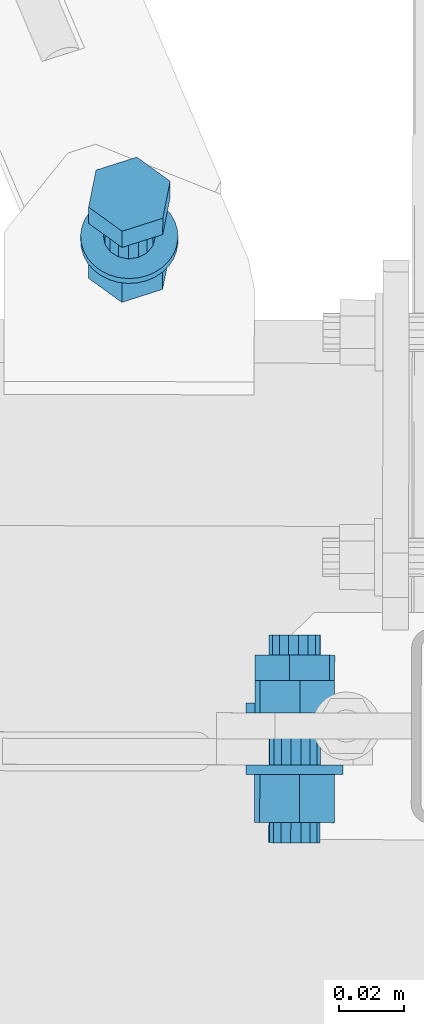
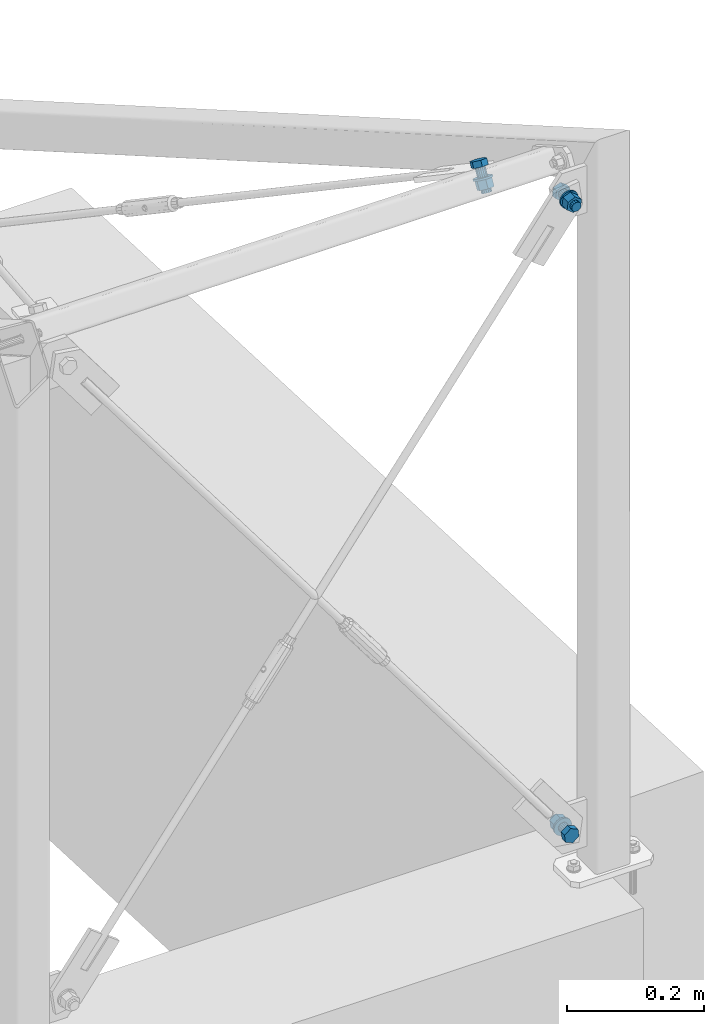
# One storey, part 228 of 288: 3 mechanical fasteners.
"""IFC2X3 building model written with IfcOpenShell, lengths in millimetres."""

from ifc_helpers import new_model, entity, si_unit, converted_unit, origin_with_axes, place, context, project, spatial, faceted_brep, element, save


model = new_model("IFC2X3")

# Units and contexts
model_context = context("Model", 3, precision=1e-09, world=origin_with_axes())
ifc_project = project(units=[si_unit("LENGTHUNIT", "METRE", prefix="MILLI"), si_unit("AREAUNIT", "SQUARE_METRE"), si_unit("VOLUMEUNIT", "CUBIC_METRE"), converted_unit("PLANEANGLEUNIT", "DEGREE", entity("IfcPlaneAngleMeasure", 0.01745329), si_unit("PLANEANGLEUNIT", "RADIAN"), dimensions=[0, 0, 0, 0, 0, 0, 0])], contexts=[model_context])

# Site, building, storey
site_placement = place(None, origin_with_axes())
site = spatial("IfcSite", under=ifc_project, at=site_placement, Name="Remont ?wietlik?w nad MC w NCPP w Opolu", CompositionType="ELEMENT")
building_placement = place(site_placement, origin_with_axes())
building = spatial("IfcBuilding", under=site, at=building_placement, Name="Konstrukcja 1", CompositionType="ELEMENT")
storey_placement = place(building_placement, origin_with_axes())
storey = spatial("IfcBuildingStorey", under=building, at=storey_placement, Name="Default Storey", CompositionType="ELEMENT", Elevation=0.0)

# Mechanical fasteners
mechanical_fastener_1_placement = place(None, origin_with_axes())
element("IfcMechanicalFastener", 1, at=mechanical_fastener_1_placement, inside=storey, ObjectType="Bolt#1", NominalDiameter=16.0, NominalLength=40.0, context=model_context, shape_type="Brep", body=[
    faceted_brep([(11026.565396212, -145.859291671, 1206.597433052), (11026.587859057, -135.8593169, 1206.597433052), (11038.882309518, -135.886933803, 1211.863964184), (11038.859846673, -145.886908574, 1211.863964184), (11040.468596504, -135.890497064, 1225.144563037), (11040.446133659, -145.890471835, 1225.144563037), (11029.76043303, -135.866443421, 1233.158630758), (11029.737970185, -145.866418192, 1233.158630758), (11017.465982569, -135.838826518, 1227.892099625), (11017.443519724, -145.838801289, 1227.892099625), (11015.879695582, -135.835263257, 1214.611500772), (11015.857232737, -145.835238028, 1214.611500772)], [[[0, 1, 2, 3]], [[3, 2, 4, 5]], [[5, 4, 6, 7]], [[7, 6, 8, 9]], [[9, 8, 10, 11]], [[11, 10, 1, 0]], [[4, 2, 1, 10, 8, 6]], [[0, 3, 5, 7, 9, 11]]]),
    faceted_brep([(11032.945132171, -145.873622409, 1226.282930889), (11032.909191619, -161.873582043, 1226.282930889), (11034.995354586, -161.87826817, 1223.961008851), (11035.031295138, -145.878308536, 1223.961008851), (11036.034158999, -161.880601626, 1221.017490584), (11036.070099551, -145.880641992, 1221.017490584), (11035.867456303, -161.880227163, 1217.900500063), (11035.903396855, -145.88026753, 1217.900500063), (11034.520625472, -161.877201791, 1215.084570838), (11034.556566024, -145.877242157, 1215.084570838), (11032.198709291, -161.871986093, 1212.998402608), (11032.234649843, -145.872026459, 1212.998402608), (11029.255198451, -161.865374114, 1211.959595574), (11029.291139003, -145.86541448, 1211.959595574), (11026.138215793, -161.858372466, 1212.126298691), (11026.174156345, -145.858412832, 1212.126298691), (11023.322293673, -161.852047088, 1213.47313292), (11023.358234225, -145.852087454, 1213.47313292), (11021.236130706, -161.84736096, 1215.795054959), (11021.272071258, -145.847401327, 1215.795054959), (11020.197326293, -161.845027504, 1218.738573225), (11020.233266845, -145.845067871, 1218.738573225), (11020.364028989, -161.845401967, 1221.855563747), (11020.399969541, -145.845442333, 1221.855563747), (11021.71085982, -161.84842734, 1224.671492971), (11021.746800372, -145.848467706, 1224.671492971), (11024.032776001, -161.853643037, 1226.757661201), (11024.068716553, -145.853683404, 1226.757661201), (11026.976286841, -161.860255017, 1227.796468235), (11027.012227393, -145.860295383, 1227.796468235), (11030.093269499, -161.867256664, 1227.629765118), (11030.129210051, -145.867297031, 1227.629765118)], [[[0, 1, 2, 3]], [[3, 2, 4, 5]], [[5, 4, 6, 7]], [[7, 6, 8, 9]], [[9, 8, 10, 11]], [[11, 10, 12, 13]], [[13, 12, 14, 15]], [[15, 14, 16, 17]], [[17, 16, 18, 19]], [[19, 18, 20, 21]], [[21, 20, 22, 23]], [[23, 22, 24, 25]], [[25, 24, 26, 27]], [[27, 26, 28, 29]], [[29, 28, 30, 31]], [[31, 30, 1, 0]], [[0, 3, 5, 7, 9, 11, 13, 15, 17, 19, 21, 23, 25, 27, 29, 31]], [[1, 30, 28, 26, 24, 22, 20, 18, 16, 14, 12, 10, 8, 6, 4, 2]]]),
    faceted_brep([(11037.10345947, -161.883003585, 1231.887217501), (11037.096720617, -164.882996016, 1231.887217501), (11039.266894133, -164.887870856, 1229.903043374), (11039.273632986, -161.887878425, 1229.903043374), (11041.00827618, -164.891782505, 1227.533613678), (11041.015015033, -161.891790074, 1227.533613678), (11042.253946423, -164.894580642, 1224.869984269), (11042.260685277, -161.894588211, 1224.869984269), (11042.956034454, -164.896157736, 1222.014516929), (11042.962773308, -161.896165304, 1222.014516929), (11043.087559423, -164.896453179, 1219.076945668), (11043.094298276, -161.896460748, 1219.076945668), (11042.643466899, -164.895455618, 1216.170159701), (11042.650205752, -161.895463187, 1216.170159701), (11041.640823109, -164.893203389, 1213.405865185), (11041.647561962, -161.893210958, 1213.405865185), (11040.118159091, -164.889783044, 1210.890292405), (11040.124897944, -161.889790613, 1210.890292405), (11038.13398997, -164.885326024, 1208.720113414), (11038.140728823, -161.885333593, 1208.720113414), (11035.764566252, -164.880003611, 1206.978726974), (11035.771305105, -161.88001118, 1206.978726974), (11033.100943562, -164.874020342, 1205.733053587), (11033.107682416, -161.87402791, 1205.733053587), (11030.245483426, -164.86760615, 1205.030963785), (11030.25222228, -161.867613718, 1205.030963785), (11027.307919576, -164.861007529, 1204.899438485), (11027.31465843, -161.861015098, 1204.899438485), (11024.401140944, -164.854478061, 1205.343532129), (11024.407879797, -161.854485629, 1205.343532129), (11021.636853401, -164.848268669, 1206.346178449), (11021.643592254, -161.848276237, 1206.346178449), (11019.121286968, -164.842617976, 1207.868846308), (11019.128025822, -161.842625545, 1207.868846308), (11016.951113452, -164.837743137, 1209.853020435), (11016.957852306, -161.837750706, 1209.853020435), (11015.209731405, -164.833831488, 1212.222450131), (11015.216470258, -161.833839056, 1212.222450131), (11013.964061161, -164.831033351, 1214.886079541), (11013.970800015, -161.831040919, 1214.886079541), (11013.261973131, -164.829456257, 1217.741546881), (11013.268711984, -161.829463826, 1217.741546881), (11013.130448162, -164.829160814, 1220.679118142), (11013.137187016, -161.829168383, 1220.679118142), (11013.574540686, -164.830158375, 1223.585904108), (11013.58127954, -161.830165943, 1223.585904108), (11014.577184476, -164.832410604, 1226.350198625), (11014.58392333, -161.832418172, 1226.350198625), (11016.099848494, -164.835830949, 1228.865771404), (11016.106587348, -161.835838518, 1228.865771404), (11018.084017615, -164.840287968, 1231.035950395), (11018.090756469, -161.840295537, 1231.035950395), (11020.453441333, -164.845610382, 1232.777336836), (11020.460180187, -161.84561795, 1232.777336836), (11023.117064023, -164.851593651, 1234.023010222), (11023.123802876, -161.85160122, 1234.023010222), (11025.972524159, -164.858007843, 1234.725100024), (11025.979263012, -161.858015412, 1234.725100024), (11028.910088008, -164.864606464, 1234.856625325), (11028.916826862, -161.864614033, 1234.856625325), (11031.816866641, -164.871135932, 1234.41253168), (11031.823605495, -161.871143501, 1234.41253168), (11034.581154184, -164.877345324, 1233.40988536), (11034.587893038, -161.877352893, 1233.40988536)], [[[0, 1, 2, 3]], [[3, 2, 4, 5]], [[5, 4, 6, 7]], [[7, 6, 8, 9]], [[9, 8, 10, 11]], [[11, 10, 12, 13]], [[13, 12, 14, 15]], [[15, 14, 16, 17]], [[17, 16, 18, 19]], [[19, 18, 20, 21]], [[21, 20, 22, 23]], [[23, 22, 24, 25]], [[25, 24, 26, 27]], [[27, 26, 28, 29]], [[29, 28, 30, 31]], [[31, 30, 32, 33]], [[33, 32, 34, 35]], [[35, 34, 36, 37]], [[37, 36, 38, 39]], [[39, 38, 40, 41]], [[41, 40, 42, 43]], [[43, 42, 44, 45]], [[45, 44, 46, 47]], [[47, 46, 48, 49]], [[49, 48, 50, 51]], [[51, 50, 52, 53]], [[53, 52, 54, 55]], [[55, 54, 56, 57]], [[57, 56, 58, 59]], [[59, 58, 60, 61]], [[61, 60, 62, 63]], [[63, 62, 1, 0]], [[0, 3, 5, 7, 9, 11, 13, 15, 17, 19, 21, 23, 25, 27, 29, 31, 33, 35, 37, 39, 41, 43, 45, 47, 49, 51, 53, 55, 57, 59, 61, 63]], [[1, 62, 60, 58, 56, 54, 52, 50, 48, 46, 44, 42, 40, 38, 36, 34, 32, 30, 28, 26, 24, 22, 20, 18, 16, 14, 12, 10, 8, 6, 4, 2]]]),
    faceted_brep([(11026.489471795, -179.659206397, 1206.597433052), (11026.522716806, -164.859243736, 1206.597433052), (11038.817167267, -164.886860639, 1211.863964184), (11038.783922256, -179.6868233, 1211.863964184), (11040.403454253, -164.8904239, 1225.144563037), (11040.370209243, -179.690386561, 1225.144563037), (11029.695290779, -164.866370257, 1233.158630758), (11029.662045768, -179.666332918, 1233.158630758), (11017.400840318, -164.838753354, 1227.892099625), (11017.367595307, -179.638716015, 1227.892099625), (11015.814553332, -164.835190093, 1214.611500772), (11015.781308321, -179.635152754, 1214.611500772)], [[[0, 1, 2, 3]], [[3, 2, 4, 5]], [[5, 4, 6, 7]], [[7, 6, 8, 9]], [[9, 8, 10, 11]], [[11, 10, 1, 0]], [[4, 2, 1, 10, 8, 6]], [[0, 3, 5, 7, 9, 11]]]),
    faceted_brep([(11032.869207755, -179.673537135, 1226.282930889), (11032.855280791, -185.873521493, 1226.282930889), (11034.941443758, -185.87820762, 1223.961008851), (11034.955370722, -179.678223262, 1223.961008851), (11035.980248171, -185.880541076, 1221.017490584), (11035.994175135, -179.680556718, 1221.017490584), (11035.813545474, -185.880166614, 1217.900500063), (11035.827472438, -179.680182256, 1217.900500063), (11034.466714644, -185.877141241, 1215.084570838), (11034.480641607, -179.677156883, 1215.084570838), (11032.144798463, -185.871925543, 1212.998402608), (11032.158725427, -179.671941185, 1212.998402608), (11029.201287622, -185.865313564, 1211.959595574), (11029.215214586, -179.665329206, 1211.959595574), (11026.084304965, -185.858311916, 1212.126298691), (11026.098231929, -179.658327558, 1212.126298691), (11023.268382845, -185.851986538, 1213.47313292), (11023.282309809, -179.65200218, 1213.47313292), (11021.182219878, -185.847300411, 1215.795054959), (11021.196146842, -179.647316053, 1215.795054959), (11020.143415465, -185.844966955, 1218.738573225), (11020.157342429, -179.644982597, 1218.738573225), (11020.310118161, -185.845341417, 1221.855563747), (11020.324045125, -179.645357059, 1221.855563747), (11021.656948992, -185.84836679, 1224.671492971), (11021.670875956, -179.648382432, 1224.671492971), (11023.978865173, -185.853582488, 1226.757661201), (11023.992792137, -179.65359813, 1226.757661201), (11026.922376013, -185.860194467, 1227.796468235), (11026.936302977, -179.660210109, 1227.796468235), (11030.03935867, -185.867196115, 1227.629765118), (11030.053285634, -179.667211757, 1227.629765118)], [[[0, 1, 2, 3]], [[3, 2, 4, 5]], [[5, 4, 6, 7]], [[7, 6, 8, 9]], [[9, 8, 10, 11]], [[11, 10, 12, 13]], [[13, 12, 14, 15]], [[15, 14, 16, 17]], [[17, 16, 18, 19]], [[19, 18, 20, 21]], [[21, 20, 22, 23]], [[23, 22, 24, 25]], [[25, 24, 26, 27]], [[27, 26, 28, 29]], [[29, 28, 30, 31]], [[31, 30, 1, 0]], [[0, 3, 5, 7, 9, 11, 13, 15, 17, 19, 21, 23, 25, 27, 29, 31]], [[1, 30, 28, 26, 24, 22, 20, 18, 16, 14, 12, 10, 8, 6, 4, 2]]]),
])
mechanical_fastener_2_placement = place(None, origin_with_axes())
element("IfcMechanicalFastener", 2, at=mechanical_fastener_2_placement, inside=storey, ObjectType="Bolt#1", NominalDiameter=16.0, NominalLength=40.0, context=model_context, shape_type="Brep", body=[
    faceted_brep([(11026.529300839, -161.872435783, 101.402567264), (11026.506525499, -171.872409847, 101.402567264), (11038.800975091, -171.900410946, 96.136036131), (11038.823750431, -161.900436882, 96.136036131), (11040.387261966, -171.904023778, 82.855437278), (11040.410037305, -161.904049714, 82.855437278), (11029.679099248, -171.87963551, 74.841369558), (11029.701874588, -161.879661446, 74.841369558), (11017.384649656, -171.851634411, 80.10790069), (11017.407424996, -161.851660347, 80.10790069), (11015.798362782, -171.84802158, 93.388499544), (11015.821138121, -161.848047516, 93.388499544)], [[[0, 1, 2, 3]], [[3, 2, 4, 5]], [[5, 4, 6, 7]], [[7, 6, 8, 9]], [[9, 8, 10, 11]], [[11, 10, 1, 0]], [[4, 2, 1, 10, 8, 6]], [[0, 3, 5, 7, 9, 11]]]),
    faceted_brep([(11032.909036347, -161.886965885, 81.717069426), (11032.945476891, -145.887007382, 81.717069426), (11035.03163971, -145.891758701, 84.038991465), (11034.995199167, -161.891717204, 84.038991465), (11036.07044405, -145.894124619, 86.982509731), (11036.034003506, -161.894083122, 86.982509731), (11035.903741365, -145.893744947, 90.099500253), (11035.867300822, -161.89370345, 90.099500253), (11034.55691063, -145.890677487, 92.915429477), (11034.520470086, -161.890635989, 92.915429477), (11032.234994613, -145.88538923, 95.001597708), (11032.19855407, -161.885347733, 95.001597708), (11029.291483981, -145.878685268, 96.040404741), (11029.255043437, -161.87864377, 96.040404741), (11026.174501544, -145.871586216, 95.873701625), (11026.138061, -161.871544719, 95.873701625), (11023.358579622, -145.865172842, 94.526867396), (11023.322139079, -161.865131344, 94.526867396), (11021.272416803, -145.860421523, 92.204945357), (11021.23597626, -161.860380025, 92.204945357), (11020.233612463, -145.858055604, 89.26142709), (11020.19717192, -161.858014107, 89.26142709), (11020.400315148, -145.858435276, 86.144436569), (11020.363874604, -161.858393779, 86.144436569), (11021.747145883, -145.861502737, 83.328507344), (11021.71070534, -161.86146124, 83.328507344), (11024.0690619, -145.866790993, 81.242339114), (11024.032621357, -161.866749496, 81.242339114), (11027.012572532, -145.873494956, 80.203532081), (11026.976131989, -161.873453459, 80.203532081), (11030.129554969, -145.880594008, 80.370235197), (11030.093114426, -161.88055251, 80.370235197)], [[[0, 1, 2, 3]], [[3, 2, 4, 5]], [[5, 4, 6, 7]], [[7, 6, 8, 9]], [[9, 8, 10, 11]], [[11, 10, 12, 13]], [[13, 12, 14, 15]], [[15, 14, 16, 17]], [[17, 16, 18, 19]], [[19, 18, 20, 21]], [[21, 20, 22, 23]], [[23, 22, 24, 25]], [[25, 24, 26, 27]], [[27, 26, 28, 29]], [[29, 28, 30, 31]], [[31, 30, 1, 0]], [[0, 3, 5, 7, 9, 11, 13, 15, 17, 19, 21, 23, 25, 27, 29, 31]], [[1, 30, 28, 26, 24, 22, 20, 18, 16, 14, 12, 10, 8, 6, 4, 2]]]),
    faceted_brep([(11037.139744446, -145.896559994, 76.112782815), (11037.146577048, -142.896567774, 76.112782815), (11039.31675041, -142.901510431, 78.096956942), (11039.309917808, -145.90150265, 78.096956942), (11041.058132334, -142.905476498, 80.466386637), (11041.051299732, -145.905468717, 80.466386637), (11042.30380249, -142.908313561, 83.130016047), (11042.296969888, -145.90830578, 83.130016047), (11043.005890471, -142.909912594, 85.985483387), (11042.999057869, -145.909904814, 85.985483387), (11043.13741543, -142.910212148, 88.923054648), (11043.130582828, -145.910204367, 88.923054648), (11042.693322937, -142.909200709, 91.829840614), (11042.686490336, -145.909192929, 91.829840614), (11041.690679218, -142.906917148, 94.594135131), (11041.683846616, -145.906909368, 94.594135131), (11040.168015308, -142.903449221, 97.109707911), (11040.161182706, -145.90344144, 97.109707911), (11038.183846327, -142.898930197, 99.279886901), (11038.177013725, -145.898922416, 99.279886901), (11035.814422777, -142.89353374, 101.021273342), (11035.807590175, -145.893525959, 101.021273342), (11033.150800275, -142.887467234, 102.266946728), (11033.143967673, -145.887459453, 102.266946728), (11030.295340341, -142.88096381, 102.96903653), (11030.288507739, -145.880956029, 102.96903653), (11027.357776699, -142.874273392, 103.100561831), (11027.350944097, -145.874265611, 103.100561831), (11024.450998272, -142.867653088, 102.656468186), (11024.44416567, -145.867645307, 102.656468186), (11021.686710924, -142.861357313, 101.653821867), (11021.679878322, -145.861349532, 101.653821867), (11019.171144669, -142.855628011, 100.131154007), (11019.164312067, -145.85562023, 100.131154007), (11017.000971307, -142.850685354, 98.14697988), (11016.994138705, -145.850677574, 98.14697988), (11015.259589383, -142.846719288, 95.777550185), (11015.252756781, -145.846711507, 95.777550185), (11014.013919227, -142.843882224, 93.113920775), (11014.007086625, -145.843874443, 93.113920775), (11013.311831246, -142.842283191, 90.258453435), (11013.304998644, -145.84227541, 90.258453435), (11013.180306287, -142.841983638, 87.320882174), (11013.173473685, -145.841975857, 87.320882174), (11013.624398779, -142.842995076, 84.414096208), (11013.617566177, -145.842987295, 84.414096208), (11014.627042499, -142.845278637, 81.649801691), (11014.620209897, -145.845270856, 81.649801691), (11016.149706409, -142.848746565, 79.134228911), (11016.142873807, -145.848738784, 79.134228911), (11018.13387539, -142.853265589, 76.96404992), (11018.127042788, -145.853257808, 76.96404992), (11020.50329894, -142.858662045, 75.22266348), (11020.496466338, -145.858654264, 75.22266348), (11023.166921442, -142.864728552, 73.976990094), (11023.16008884, -145.864720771, 73.976990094), (11026.022381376, -142.871231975, 73.274900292), (11026.015548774, -145.871224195, 73.274900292), (11028.959945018, -142.877922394, 73.143374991), (11028.953112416, -145.877914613, 73.143374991), (11031.866723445, -142.884542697, 73.587468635), (11031.859890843, -145.884534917, 73.587468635), (11034.631010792, -142.890838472, 74.590114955), (11034.624178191, -145.890830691, 74.590114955)], [[[0, 1, 2, 3]], [[3, 2, 4, 5]], [[5, 4, 6, 7]], [[7, 6, 8, 9]], [[9, 8, 10, 11]], [[11, 10, 12, 13]], [[13, 12, 14, 15]], [[15, 14, 16, 17]], [[17, 16, 18, 19]], [[19, 18, 20, 21]], [[21, 20, 22, 23]], [[23, 22, 24, 25]], [[25, 24, 26, 27]], [[27, 26, 28, 29]], [[29, 28, 30, 31]], [[31, 30, 32, 33]], [[33, 32, 34, 35]], [[35, 34, 36, 37]], [[37, 36, 38, 39]], [[39, 38, 40, 41]], [[41, 40, 42, 43]], [[43, 42, 44, 45]], [[45, 44, 46, 47]], [[47, 46, 48, 49]], [[49, 48, 50, 51]], [[51, 50, 52, 53]], [[53, 52, 54, 55]], [[55, 54, 56, 57]], [[57, 56, 58, 59]], [[59, 58, 60, 61]], [[61, 60, 62, 63]], [[63, 62, 1, 0]], [[0, 3, 5, 7, 9, 11, 13, 15, 17, 19, 21, 23, 25, 27, 29, 31, 33, 35, 37, 39, 41, 43, 45, 47, 49, 51, 53, 55, 57, 59, 61, 63]], [[1, 62, 60, 58, 56, 54, 52, 50, 48, 46, 44, 42, 40, 38, 36, 34, 32, 30, 28, 26, 24, 22, 20, 18, 16, 14, 12, 10, 8, 6, 4, 2]]]),
    faceted_brep([(11026.606281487, -128.072523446, 101.402567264), (11026.572573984, -142.872485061, 101.402567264), (11038.867023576, -142.90048616, 96.136036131), (11038.900731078, -128.100524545, 96.136036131), (11040.45331045, -142.904098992, 82.855437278), (11040.487017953, -128.104137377, 82.855437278), (11029.745147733, -142.879710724, 74.841369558), (11029.778855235, -128.079749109, 74.841369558), (11017.450698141, -142.851709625, 80.10790069), (11017.484405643, -128.05174801, 80.10790069), (11015.864411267, -142.848096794, 93.388499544), (11015.898118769, -128.048135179, 93.388499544)], [[[0, 1, 2, 3]], [[3, 2, 4, 5]], [[5, 4, 6, 7]], [[7, 6, 8, 9]], [[9, 8, 10, 11]], [[11, 10, 1, 0]], [[4, 2, 1, 10, 8, 6]], [[0, 3, 5, 7, 9, 11]]]),
    faceted_brep([(11032.986016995, -128.087053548, 81.717069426), (11033.000137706, -121.887069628, 81.717069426), (11035.086300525, -121.891820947, 84.038991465), (11035.072179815, -128.091804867, 84.038991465), (11036.125104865, -121.894186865, 86.982509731), (11036.110984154, -128.094170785, 86.982509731), (11035.95840218, -121.893807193, 90.099500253), (11035.94428147, -128.093791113, 90.099500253), (11034.611571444, -121.890739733, 92.915429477), (11034.597450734, -128.090723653, 92.915429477), (11032.289655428, -121.885451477, 95.001597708), (11032.275534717, -128.085435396, 95.001597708), (11029.346144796, -121.878747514, 96.040404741), (11029.332024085, -128.078731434, 96.040404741), (11026.229162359, -121.871648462, 95.873701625), (11026.215041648, -128.071632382, 95.873701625), (11023.413240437, -121.865235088, 94.526867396), (11023.399119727, -128.065219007, 94.526867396), (11021.327077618, -121.860483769, 92.204945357), (11021.312956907, -128.060467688, 92.204945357), (11020.288273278, -121.85811785, 89.26142709), (11020.274152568, -128.05810177, 89.26142709), (11020.454975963, -121.858497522, 86.144436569), (11020.440855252, -128.058481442, 86.144436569), (11021.801806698, -121.861564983, 83.328507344), (11021.787685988, -128.061548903, 83.328507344), (11024.123722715, -121.866853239, 81.242339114), (11024.109602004, -128.066837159, 81.242339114), (11027.067233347, -121.873557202, 80.203532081), (11027.053112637, -128.073541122, 80.203532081), (11030.184215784, -121.880656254, 80.370235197), (11030.170095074, -128.080640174, 80.370235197)], [[[0, 1, 2, 3]], [[3, 2, 4, 5]], [[5, 4, 6, 7]], [[7, 6, 8, 9]], [[9, 8, 10, 11]], [[11, 10, 12, 13]], [[13, 12, 14, 15]], [[15, 14, 16, 17]], [[17, 16, 18, 19]], [[19, 18, 20, 21]], [[21, 20, 22, 23]], [[23, 22, 24, 25]], [[25, 24, 26, 27]], [[27, 26, 28, 29]], [[29, 28, 30, 31]], [[31, 30, 1, 0]], [[0, 3, 5, 7, 9, 11, 13, 15, 17, 19, 21, 23, 25, 27, 29, 31]], [[1, 30, 28, 26, 24, 22, 20, 18, 16, 14, 12, 10, 8, 6, 4, 2]]]),
])
mechanical_fastener_3_placement = place(None, origin_with_axes())
element("IfcMechanicalFastener", 3, at=mechanical_fastener_3_placement, inside=storey, ObjectType="Bolt#1", NominalDiameter=16.0, NominalLength=40.0, context=model_context, shape_type="Brep", body=[
    faceted_brep([(10966.962558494, 21.311471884, 1196.65155059), (10966.951286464, 16.311487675, 1187.991294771), (10964.675638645, 4.898557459, 1194.583492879), (10964.686910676, 9.898541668, 1203.243748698), (10974.952010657, -2.521079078, 1198.853832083), (10974.963282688, 2.47890513, 1207.514087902), (10987.504030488, 1.4722146, 1196.531973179), (10987.515302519, 6.472198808, 1205.192228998), (10989.779678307, 12.885144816, 1189.939775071), (10989.790950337, 17.885129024, 1198.60003089), (10979.503306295, 20.304781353, 1185.669435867), (10979.514578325, 25.304765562, 1194.329691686)], [[[0, 1, 2, 3]], [[3, 2, 4, 5]], [[5, 4, 6, 7]], [[7, 6, 8, 9]], [[9, 8, 10, 11]], [[11, 10, 1, 0]], [[3, 5, 7, 9, 11, 0]], [[2, 1, 10, 8, 6, 4]]]),
    faceted_brep([(10979.97252133, -5.611592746, 1182.15639556), (10979.990556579, 2.388381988, 1196.01280487), (10976.907151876, 1.969385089, 1196.258725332), (10976.889116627, -6.030589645, 1182.402316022), (10973.872541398, 2.604270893, 1195.896124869), (10973.854506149, -5.395703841, 1182.039715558), (10971.34871708, 4.196383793, 1194.980206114), (10971.330681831, -3.803590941, 1181.123796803), (10969.719908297, 6.503339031, 1193.650409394), (10969.701873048, -1.496635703, 1179.794000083), (10969.234086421, 9.173923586, 1192.109184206), (10969.216051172, 1.173948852, 1178.252774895), (10969.965213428, 11.801565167, 1190.591168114), (10969.947178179, 3.801590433, 1176.734758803), (10971.80198186, 13.986229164, 1189.327465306), (10971.783946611, 5.98625443, 1175.471055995), (10974.464760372, 15.395320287, 1188.510463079), (10974.446725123, 7.395345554, 1174.654053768), (10977.548165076, 15.814317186, 1188.264542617), (10977.530129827, 7.814342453, 1174.408133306), (10980.582775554, 15.179431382, 1188.627143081), (10980.564740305, 7.179456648, 1174.77073377), (10983.106599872, 13.587318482, 1189.543061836), (10983.088564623, 5.587343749, 1175.686652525), (10984.735408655, 11.280363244, 1190.872858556), (10984.717373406, 3.28038851, 1177.016449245), (10985.221230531, 8.609778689, 1192.414083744), (10985.203195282, 0.609803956, 1178.557674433), (10984.490103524, 5.982137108, 1193.932099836), (10984.472068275, -2.017837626, 1180.075690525), (10982.653335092, 3.797473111, 1195.195802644), (10982.635299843, -4.202501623, 1181.339393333)], [[[0, 1, 2, 3]], [[3, 2, 4, 5]], [[5, 4, 6, 7]], [[7, 6, 8, 9]], [[9, 8, 10, 11]], [[11, 10, 12, 13]], [[13, 12, 14, 15]], [[15, 14, 16, 17]], [[17, 16, 18, 19]], [[19, 18, 20, 21]], [[21, 20, 22, 23]], [[23, 22, 24, 25]], [[25, 24, 26, 27]], [[27, 26, 28, 29]], [[29, 28, 30, 31]], [[31, 30, 1, 0]], [[2, 1, 30, 28, 26, 24, 22, 20, 18, 16, 14, 12, 10, 8, 6, 4]], [[31, 0, 3, 5, 7, 9, 11, 13, 15, 17, 19, 21, 23, 25, 27, 29]]]),
    faceted_brep([(10982.386675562, -12.802123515, 1182.840593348), (10982.390057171, -11.302128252, 1185.438670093), (10979.54422396, -11.941528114, 1185.811530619), (10979.540842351, -13.441523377, 1183.213453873), (10976.608673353, -12.087747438, 1185.899770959), (10976.605291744, -13.587742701, 1183.301694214), (10973.696216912, -11.735167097, 1185.700000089), (10973.692835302, -13.235162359, 1183.101923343), (10970.918778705, -10.897336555, 1185.21989509), (10970.915397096, -12.397331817, 1182.621818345), (10968.383094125, -9.60645317, 1184.477906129), (10968.379712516, -11.106448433, 1181.879829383), (10966.186608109, -7.912124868, 1183.502547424), (10966.1832265, -9.412120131, 1180.904470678), (10964.413730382, -5.879463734, 1182.331301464), (10964.410348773, -7.379458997, 1179.733224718), (10963.132591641, -3.586583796, 1181.009178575), (10963.129210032, -5.086579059, 1178.411101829), (10962.392425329, -1.121599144, 1179.586987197), (10962.38904372, -2.621594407, 1176.988910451), (10962.221675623, 1.420762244, 1178.119381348), (10962.218294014, -0.079233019, 1175.521304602), (10962.626904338, 3.942798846, 1176.662760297), (10962.623522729, 2.442803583, 1174.064683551), (10963.592538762, 6.347590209, 1175.273101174), (10963.589157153, 4.847594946, 1172.675024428), (10965.081470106, 8.54272155, 1174.003807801), (10965.078088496, 7.042726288, 1171.405731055), (10967.036479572, 10.443835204, 1172.903658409), (10967.033097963, 8.943839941, 1170.305581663), (10969.382437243, 11.977872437, 1172.014931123), (10969.379055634, 10.477877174, 1169.416854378), (10972.029189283, 13.08588106, 1171.371779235), (10972.025807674, 11.585885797, 1168.773702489), (10974.875022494, 13.725280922, 1170.99891871), (10974.871640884, 12.225285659, 1168.400841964), (10977.810573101, 13.871500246, 1170.910678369), (10977.807191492, 12.371504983, 1168.312601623), (10980.723029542, 13.518919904, 1171.110449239), (10980.719647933, 12.018924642, 1168.512372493), (10983.500467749, 12.681089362, 1171.590554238), (10983.49708614, 11.1810941, 1168.992477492), (10986.036152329, 11.390205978, 1172.332543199), (10986.032770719, 9.890210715, 1169.734466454), (10988.232638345, 9.695877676, 1173.307901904), (10988.229256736, 8.195882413, 1170.709825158), (10990.005516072, 7.663216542, 1174.479147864), (10990.002134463, 6.163221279, 1171.881071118), (10991.286654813, 5.370336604, 1175.801270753), (10991.283273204, 3.870341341, 1173.203194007), (10992.026821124, 2.905351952, 1177.223462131), (10992.023439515, 1.405356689, 1174.625385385), (10992.197570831, 0.362990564, 1178.69106798), (10992.194189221, -1.137004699, 1176.092991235), (10991.792342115, -2.159046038, 1180.147689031), (10991.788960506, -3.659041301, 1177.549612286), (10990.826707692, -4.563837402, 1181.537348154), (10990.823326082, -6.063832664, 1178.939271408), (10989.337776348, -6.758968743, 1182.806641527), (10989.334394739, -8.258964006, 1180.208564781), (10987.382766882, -8.660082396, 1183.906790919), (10987.379385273, -10.160077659, 1181.308714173), (10985.036809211, -10.194119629, 1184.795518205), (10985.033427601, -11.694114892, 1182.197441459)], [[[0, 1, 2, 3]], [[3, 2, 4, 5]], [[5, 4, 6, 7]], [[7, 6, 8, 9]], [[9, 8, 10, 11]], [[11, 10, 12, 13]], [[13, 12, 14, 15]], [[15, 14, 16, 17]], [[17, 16, 18, 19]], [[19, 18, 20, 21]], [[21, 20, 22, 23]], [[23, 22, 24, 25]], [[25, 24, 26, 27]], [[27, 26, 28, 29]], [[29, 28, 30, 31]], [[31, 30, 32, 33]], [[33, 32, 34, 35]], [[35, 34, 36, 37]], [[37, 36, 38, 39]], [[39, 38, 40, 41]], [[41, 40, 42, 43]], [[43, 42, 44, 45]], [[45, 44, 46, 47]], [[47, 46, 48, 49]], [[49, 48, 50, 51]], [[51, 50, 52, 53]], [[53, 52, 54, 55]], [[55, 54, 56, 57]], [[57, 56, 58, 59]], [[59, 58, 60, 61]], [[61, 60, 62, 63]], [[63, 62, 1, 0]], [[2, 1, 62, 60, 58, 56, 54, 52, 50, 48, 46, 44, 42, 40, 38, 36, 34, 32, 30, 28, 26, 24, 22, 20, 18, 16, 14, 12, 10, 8, 6, 4]], [[63, 0, 3, 5, 7, 9, 11, 13, 15, 17, 19, 21, 23, 25, 27, 29, 31, 33, 35, 37, 39, 41, 43, 45, 47, 49, 51, 53, 55, 57, 59, 61]]]),
    faceted_brep([(10966.929869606, 6.811517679, 1171.536808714), (10966.913187, -0.58845895, 1158.719630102), (10964.637539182, -12.001389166, 1165.311828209), (10964.654221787, -4.601412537, 1178.129006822), (10974.913911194, -19.421025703, 1169.582167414), (10974.930593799, -12.021049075, 1182.399346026), (10987.465931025, -15.427732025, 1167.26030851), (10987.48261363, -8.027755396, 1180.077487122), (10989.741578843, -4.014801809, 1160.668110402), (10989.758261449, 3.385174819, 1173.485289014), (10979.465206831, 3.404834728, 1156.397771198), (10979.481889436, 10.804811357, 1169.21494981)], [[[0, 1, 2, 3]], [[3, 2, 4, 5]], [[5, 4, 6, 7]], [[7, 6, 8, 9]], [[9, 8, 10, 11]], [[11, 10, 1, 0]], [[3, 5, 7, 9, 11, 0]], [[2, 1, 10, 8, 6, 4]]]),
    faceted_brep([(10979.945468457, -17.611554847, 1161.371781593), (10979.952457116, -14.511564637, 1166.741140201), (10976.869052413, -14.930561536, 1166.987060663), (10976.862063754, -18.030551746, 1161.617702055), (10973.834441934, -14.295675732, 1166.6244602), (10973.827453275, -17.395665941, 1161.255101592), (10971.310617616, -12.703562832, 1165.708541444), (10971.303628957, -15.803553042, 1160.339182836), (10969.681808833, -10.396607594, 1164.378744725), (10969.674820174, -13.496597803, 1159.009386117), (10969.195986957, -7.726023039, 1162.837519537), (10969.188998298, -10.826013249, 1157.468160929), (10969.927113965, -5.098381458, 1161.319503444), (10969.920125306, -8.198371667, 1155.950144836), (10971.763882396, -2.913717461, 1160.055800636), (10971.756893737, -6.01370767, 1154.686442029), (10974.426660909, -1.504626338, 1159.23879841), (10974.41967225, -4.604616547, 1153.869439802), (10977.510065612, -1.085629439, 1158.992877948), (10977.503076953, -4.185619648, 1153.62351934), (10980.544676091, -1.720515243, 1159.355478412), (10980.537687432, -4.820505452, 1153.986119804), (10983.068500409, -3.312628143, 1160.271397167), (10983.06151175, -6.412618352, 1154.902038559), (10984.697309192, -5.619583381, 1161.601193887), (10984.690320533, -8.71957359, 1156.231835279), (10985.183131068, -8.290167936, 1163.142419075), (10985.176142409, -11.390158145, 1157.773060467), (10984.45200406, -10.917809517, 1164.660435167), (10984.445015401, -14.017799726, 1159.291076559), (10982.615235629, -13.102473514, 1165.924137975), (10982.60824697, -16.202463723, 1160.554779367)], [[[0, 1, 2, 3]], [[3, 2, 4, 5]], [[5, 4, 6, 7]], [[7, 6, 8, 9]], [[9, 8, 10, 11]], [[11, 10, 12, 13]], [[13, 12, 14, 15]], [[15, 14, 16, 17]], [[17, 16, 18, 19]], [[19, 18, 20, 21]], [[21, 20, 22, 23]], [[23, 22, 24, 25]], [[25, 24, 26, 27]], [[27, 26, 28, 29]], [[29, 28, 30, 31]], [[31, 30, 1, 0]], [[2, 1, 30, 28, 26, 24, 22, 20, 18, 16, 14, 12, 10, 8, 6, 4]], [[31, 0, 3, 5, 7, 9, 11, 13, 15, 17, 19, 21, 23, 25, 27, 29]]]),
])

save(model, "model.ifc")
